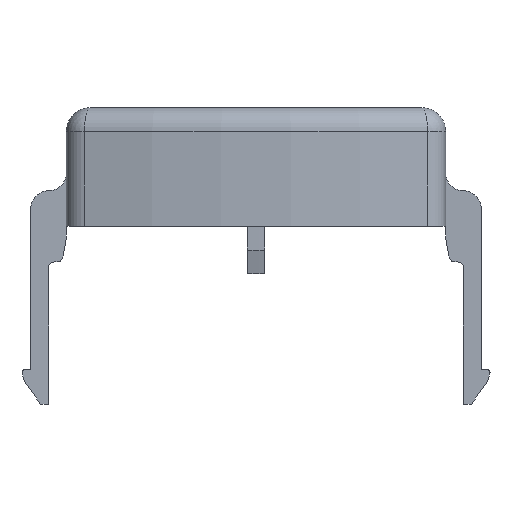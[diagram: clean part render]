
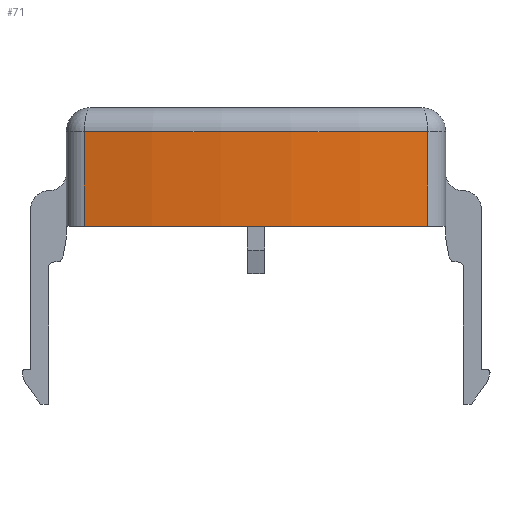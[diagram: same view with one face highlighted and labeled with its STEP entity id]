
A CAD part, front view. The second image highlights one B-rep face of the part: STEP entity #71.
In plain terms, the highlighted cylindrical face has radius 61.5 mm (diameter 123 mm), a partial arc.
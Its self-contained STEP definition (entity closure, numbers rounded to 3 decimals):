
#5 = VERTEX_POINT ( 'NONE', #1711 ) ;
#22 = FACE_OUTER_BOUND ( 'NONE', #208, .T. ) ;
#71 = ADVANCED_FACE ( 'NONE', ( #22 ), #2117, .T. ) ;
#75 = EDGE_CURVE ( 'NONE', #847, #311, #865, .T. ) ;
#134 = EDGE_CURVE ( 'NONE', #2084, #5, #745, .T. ) ;
#208 = EDGE_LOOP ( 'NONE', ( #2518, #231, #1614, #548 ) ) ;
#231 = ORIENTED_EDGE ( 'NONE', *, *, #75, .T. ) ;
#239 = VECTOR ( 'NONE', #1392, 1000. ) ;
#289 = LINE ( 'NONE', #1256, #1959 ) ;
#311 = VERTEX_POINT ( 'NONE', #687 ) ;
#367 = CARTESIAN_POINT ( 'NONE',  ( -14.471, -59.773, 0. ) ) ;
#548 = ORIENTED_EDGE ( 'NONE', *, *, #134, .T. ) ;
#575 = EDGE_CURVE ( 'NONE', #847, #5, #289, .T. ) ;
#658 = DIRECTION ( 'NONE',  ( 0., 0., -1. ) ) ;
#687 = CARTESIAN_POINT ( 'NONE',  ( -14.471, -59.773, 8. ) ) ;
#745 = CIRCLE ( 'NONE', #1072, 61.5 ) ;
#787 = CARTESIAN_POINT ( 'NONE',  ( -14.471, -59.773, 10. ) ) ;
#818 = DIRECTION ( 'NONE',  ( 1., 0., 0. ) ) ;
#847 = VERTEX_POINT ( 'NONE', #895 ) ;
#865 = CIRCLE ( 'NONE', #867, 61.5 ) ;
#867 = AXIS2_PLACEMENT_3D ( 'NONE', #1150, #1962, #1974 ) ;
#895 = CARTESIAN_POINT ( 'NONE',  ( 14.471, -59.773, 8. ) ) ;
#1072 = AXIS2_PLACEMENT_3D ( 'NONE', #2131, #1564, #818 ) ;
#1150 = CARTESIAN_POINT ( 'NONE',  ( 0., 0., 8. ) ) ;
#1256 = CARTESIAN_POINT ( 'NONE',  ( 14.471, -59.773, 10. ) ) ;
#1392 = DIRECTION ( 'NONE',  ( 0., 0., -1. ) ) ;
#1395 = DIRECTION ( 'NONE',  ( -1., 0., 0. ) ) ;
#1564 = DIRECTION ( 'NONE',  ( 0., 0., 1. ) ) ;
#1614 = ORIENTED_EDGE ( 'NONE', *, *, #1677, .T. ) ;
#1677 = EDGE_CURVE ( 'NONE', #311, #2084, #1766, .T. ) ;
#1711 = CARTESIAN_POINT ( 'NONE',  ( 14.471, -59.773, 0. ) ) ;
#1760 = DIRECTION ( 'NONE',  ( 0., 0., -1. ) ) ;
#1766 = LINE ( 'NONE', #787, #239 ) ;
#1959 = VECTOR ( 'NONE', #658, 1000. ) ;
#1962 = DIRECTION ( 'NONE',  ( 0., 0., -1. ) ) ;
#1963 = AXIS2_PLACEMENT_3D ( 'NONE', #2364, #1760, #1395 ) ;
#1974 = DIRECTION ( 'NONE',  ( 1., 0., 0. ) ) ;
#2084 = VERTEX_POINT ( 'NONE', #367 ) ;
#2117 = CYLINDRICAL_SURFACE ( 'NONE', #1963, 61.5 ) ;
#2131 = CARTESIAN_POINT ( 'NONE',  ( 0., 0., 0. ) ) ;
#2364 = CARTESIAN_POINT ( 'NONE',  ( 0., 0., 10. ) ) ;
#2518 = ORIENTED_EDGE ( 'NONE', *, *, #575, .F. ) ;
